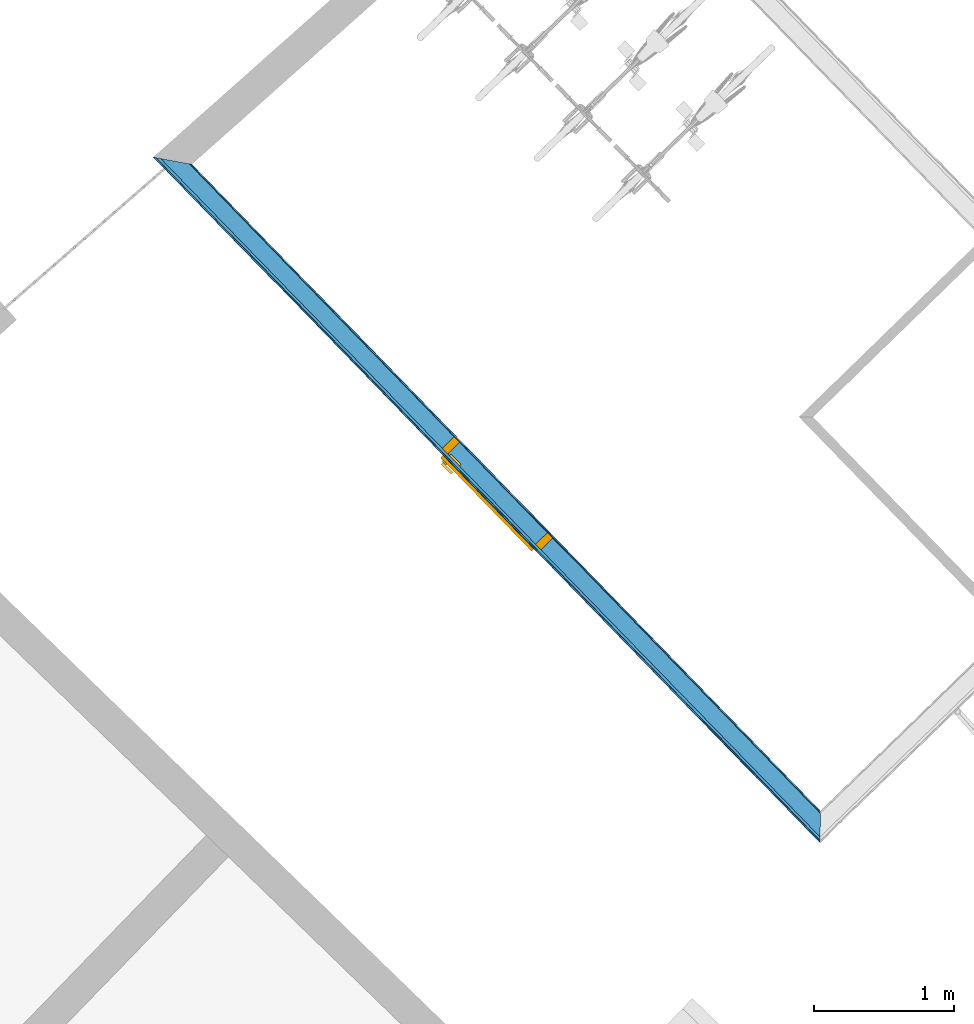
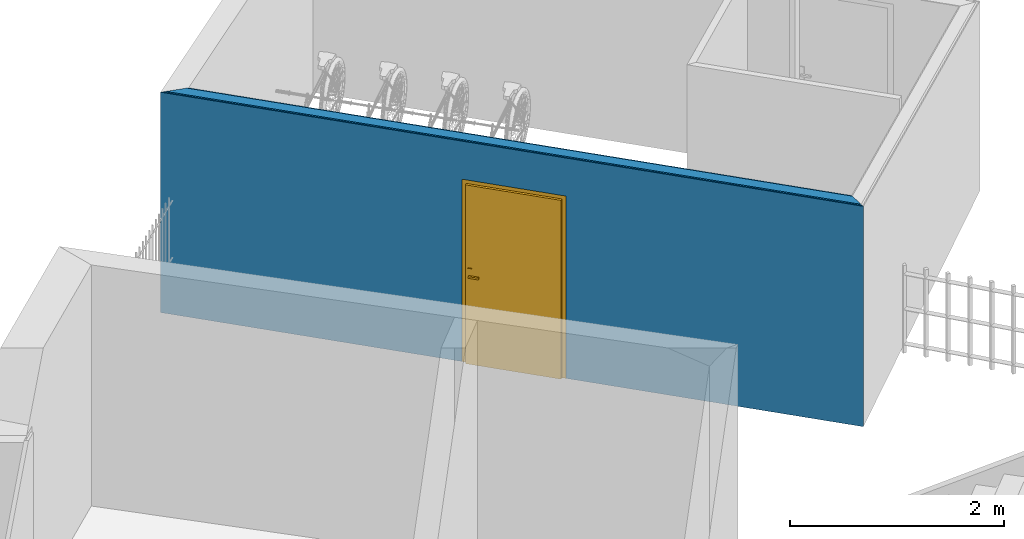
# One storey, part 112 of 195: 4 building element parts, 1 door, 1 opening, 1 element without a shape of its own.
"""IFC2X3 building model written with IfcOpenShell, lengths in metres."""

from ifc_helpers import new_model, entity, si_unit, converted_unit, derived_unit, money_unit, direction, frame, origin_with_axes, origin_2d_with_axis, place, context, subcontext, project, spatial, polyline, rectangle, outline, extrude, boolean, faceted_brep, source, transform, mapped, material, type_object, element, fill, aggregate, save


model = new_model("IFC2X3")

# Units and contexts
model_context = context("Model", 3, precision=1e-05, world=origin_with_axes(), true_north=direction((0.0, 1.0)))
body_context = subcontext(model_context, "Body", "Model", "MODEL_VIEW")
ifc_project = project(units=[si_unit("LENGTHUNIT", "METRE"), si_unit("AREAUNIT", "SQUARE_METRE"), si_unit("VOLUMEUNIT", "CUBIC_METRE"), converted_unit("PLANEANGLEUNIT", "DEGREE", entity("IfcPlaneAngleMeasure", 0.0174532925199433), si_unit("PLANEANGLEUNIT", "RADIAN"), dimensions=[0, 0, 0, 0, 0, 0, 0]), money_unit("CHF"), converted_unit("TIMEUNIT", "Year", entity("IfcTimeMeasure", 31557600.0), si_unit("TIMEUNIT", "SECOND"), dimensions=[0, 0, 1, 0, 0, 0, 0]), si_unit("MASSUNIT", "GRAM", prefix="KILO"), si_unit("THERMODYNAMICTEMPERATUREUNIT", "DEGREE_CELSIUS"), si_unit("LUMINOUSINTENSITYUNIT", "LUMEN"), si_unit("ENERGYUNIT", "JOULE", prefix="MEGA"), derived_unit("THERMALCONDUCTANCEUNIT", [(si_unit("POWERUNIT", "WATT"), 1), (si_unit("LENGTHUNIT", "METRE"), -1), (si_unit("THERMODYNAMICTEMPERATUREUNIT", "KELVIN"), -1)]), derived_unit("SPECIFICHEATCAPACITYUNIT", [(si_unit("ENERGYUNIT", "JOULE"), 1), (si_unit("MASSUNIT", "GRAM", prefix="KILO"), -1), (si_unit("THERMODYNAMICTEMPERATUREUNIT", "KELVIN"), -1)]), derived_unit("MASSDENSITYUNIT", [(si_unit("MASSUNIT", "GRAM", prefix="KILO"), 1), (si_unit("VOLUMEUNIT", "CUBIC_METRE"), -1)])], contexts=[model_context])

# Site, building, storey
site_placement = place(None, origin_with_axes())
site = spatial("IfcSite", under=ifc_project, at=site_placement, Name="Site", CompositionType="ELEMENT")
building_placement = place(site_placement, origin_with_axes())
building = spatial("IfcBuilding", under=site, at=building_placement, Name="Bâtiment", CompositionType="ELEMENT")
storey_placement = place(building_placement, origin_with_axes())
storey = spatial("IfcBuildingStorey", under=building, at=storey_placement, Name="rdc", CompositionType="ELEMENT", Elevation=0.0)

# Door
door_style = type_object("IfcDoorStyle", Name="Porte_1v", ConstructionType="NOTDEFINED", OperationType="NOTDEFINED", ParameterTakesPrecedence=False, Sizeable=False)
shared_shape = source(origin_with_axes(), body_context, "Body", "Brep", [
    faceted_brep([(-0.505, 0.0, 0.0), (-0.505, 0.0, 2.08), (0.505, 0.0, 2.08), (0.505, 0.0, 0.0), (0.465, 0.0, 0.0), (0.465, 0.0, 2.04), (-0.465, 0.0, 2.04), (-0.465, 0.0, 0.0), (-0.505, -0.16, 0.0), (-0.505, -0.16, 2.08), (0.505, -0.16, 2.08), (0.505, -0.16, 0.0), (0.45, -0.16, 0.0), (0.45, -0.015, 0.0), (0.465, -0.015, 0.0), (0.465, -0.015, 2.04), (-0.465, -0.015, 2.04), (-0.465, -0.015, 0.0), (-0.45, -0.015, 0.0), (-0.45, -0.16, 0.0), (-0.45, -0.16, 2.025), (0.45, -0.16, 2.025), (0.45, -0.015, 2.025), (-0.45, -0.015, 2.025)], [[[0, 1, 2, 3, 4, 5, 6, 7]], [[8, 9, 1, 0]], [[9, 10, 2, 1]], [[10, 11, 3, 2]], [[3, 11, 12, 13, 14, 4]], [[5, 4, 14, 15]], [[6, 5, 15, 16]], [[7, 6, 16, 17]], [[0, 7, 17, 18, 19, 8]], [[19, 20, 21, 12, 11, 10, 9, 8]], [[22, 13, 12, 21]], [[17, 16, 15, 14, 13, 22, 23, 18]], [[18, 23, 20, 19]], [[23, 22, 21, 20]]]),
    faceted_brep([(0.4, -0.015, 0.9), (0.4, -0.015, 1.1), (0.44, -0.015, 1.1), (0.44, -0.015, 0.9), (0.4, -0.025, 0.9), (0.4, -0.025, 1.1), (0.44, -0.025, 1.1), (0.44, -0.025, 0.9)], [[[0, 1, 2, 3]], [[0, 4, 5, 1]], [[1, 5, 6, 2]], [[2, 6, 7, 3]], [[3, 7, 4, 0]], [[7, 6, 5, 4]]]),
    faceted_brep([(0.33, -0.025, 1.0), (0.33, -0.025, 1.02), (0.43, -0.025, 1.02), (0.43, -0.025, 1.0), (0.33, -0.045, 1.0), (0.33, -0.045, 1.02), (0.43, -0.045, 1.02), (0.43, -0.045, 1.0)], [[[0, 1, 2, 3]], [[0, 4, 5, 1]], [[1, 5, 6, 2]], [[2, 6, 7, 3]], [[3, 7, 4, 0]], [[7, 6, 5, 4]]]),
    faceted_brep([(0.4, 0.035, 0.9), (0.4, 0.035, 1.1), (0.44, 0.035, 1.1), (0.44, 0.035, 0.9), (0.4, 0.025, 0.9), (0.4, 0.025, 1.1), (0.44, 0.025, 1.1), (0.44, 0.025, 0.9)], [[[0, 1, 2, 3]], [[0, 4, 5, 1]], [[1, 5, 6, 2]], [[2, 6, 7, 3]], [[3, 7, 4, 0]], [[7, 6, 5, 4]]]),
    faceted_brep([(0.33, 0.05500000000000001, 1.0), (0.33, 0.05500000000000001, 1.02), (0.43, 0.05500000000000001, 1.02), (0.43, 0.05500000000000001, 1.0), (0.33, 0.035, 1.0), (0.33, 0.035, 1.02), (0.43, 0.035, 1.02), (0.43, 0.035, 1.0)], [[[0, 1, 2, 3]], [[0, 4, 5, 1]], [[1, 5, 6, 2]], [[2, 6, 7, 3]], [[3, 7, 4, 0]], [[7, 6, 5, 4]]]),
    faceted_brep([(0.465, 0.025, 0.0), (0.465, -0.015, 0.0), (-0.465, -0.015, 0.0), (-0.465, 0.025, 0.0), (0.465, 0.025, 2.04), (0.465, -0.015, 2.04), (-0.465, -0.015, 2.04), (-0.465, 0.025, 2.04)], [[[0, 1, 2, 3]], [[4, 5, 1, 0]], [[1, 5, 6, 2]], [[3, 2, 6, 7]], [[0, 3, 7, 4]], [[7, 6, 5, 4]]]),
])
wall_placement = place(storey_placement, frame((9524.77334866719, -1050.399099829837, 57.7), z_axis=(0.0, 0.0, 1.0), x_axis=(0.6970514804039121, -0.7170210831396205, 0.0)))
opening_placement = place(wall_placement, frame((3.432817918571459, 0.0, 0.0), z_axis=(0.0, 0.0, 1.0), x_axis=(1.0, 0.0, 0.0)))
door_placement = place(opening_placement, frame((0.4650000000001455, 0.0, 0.0), z_axis=(0.0, 0.0, 1.0), x_axis=(-1.0, 0.0, 0.0)))
door = element("IfcDoor", 1, at=door_placement, inside=storey, type_object=door_style, Name="Por-300", OverallHeight=2.04, OverallWidth=0.93, context=body_context, shape_type="MappedRepresentation", body=[
    mapped(shared_shape, transform((0.4650000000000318, 0.0, 0.0))),
])

# Wall, opening
wall_type = type_object("IfcWallType", Name="1/Ossatur bois 160   non isol 160", PredefinedType="NOTDEFINED")
wall = element("IfcWall", 2, at=wall_placement, inside=storey, type_object=wall_type, Name="Mur-110")
opening = element("IfcOpeningElement", 3, at=opening_placement, cuts=wall, Name="Por-300", context=body_context, shape_type="SweptSolid", body=[
    extrude(rectangle(XDim=1.01000001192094, YDim=2.079999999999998, at=origin_2d_with_axis()), frame((5.960487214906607e-09, 0.1600000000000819, 1.039999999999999), z_axis=(0.0, 1.0, 0.0), x_axis=(1.0, 0.0, 0.0)), (0.0, 0.0, -1.0), 0.32),
])

fill(opening, door)

# Building element part
ifc_material_1 = material(Name="Sans Trame 296962763")
building_element_part_1_placement = place(wall_placement, origin_with_axes())
building_element_part_1 = element("IfcBuildingElementPart", 4, at=building_element_part_1_placement, material=ifc_material_1, Name="Sans Trame 296962763", context=body_context, shape_type="CSG", body=[
    boolean("DIFFERENCE", boolean("DIFFERENCE", boolean("DIFFERENCE", boolean("DIFFERENCE", extrude(outline(polyline([(0.0, 0.1499999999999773), (6.826933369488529, 0.1499999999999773), (6.826933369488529, 0.1599999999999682), (0.0, 0.1600000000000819), (0.0, 0.1499999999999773)])), origin_with_axes(), (0.0, 0.0, 1.0), 2.75), faceted_brep([(0.2274624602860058, 0.1599999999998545, 2.50019112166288), (0.2274624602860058, 0.1599999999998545, 0.0), (0.0, 0.1600000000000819, 0.0), (0.0, 0.1600000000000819, 2.75), (6.826933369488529, 0.1599999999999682, 2.75), (6.826933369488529, 0.1599999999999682, 0.0), (6.666933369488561, 0.1599999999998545, 0.0), (6.666933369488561, 0.1599999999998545, 2.500191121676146), (0.213246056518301, 0.1499999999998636, 2.501066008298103), (0.213246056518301, 0.1499999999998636, 0.0), (0.0, 0.1499999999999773, 0.0), (0.0, 0.1499999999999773, 2.75), (6.826933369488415, 0.1499999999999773, 2.75), (6.826933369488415, 0.1499999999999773, 0.0), (6.676933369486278, 0.1499999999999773, 0.0), (6.676933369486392, 0.1499999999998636, 2.501066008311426)], [[[0, 1, 2, 3, 4, 5, 6, 7]], [[1, 0, 8, 9]], [[1, 9, 10, 2]], [[3, 2, 10, 11]], [[3, 11, 12, 4]], [[12, 13, 5, 4]], [[14, 6, 5, 13]], [[7, 6, 14, 15]], [[0, 7, 15, 8]], [[15, 14, 13, 12, 11, 10, 9, 8]]])), faceted_brep([(0.213246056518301, 0.1499999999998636, 2.501066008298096), (0.213246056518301, 0.1499999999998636, 0.0), (0.0, 0.1499999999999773, 0.0), (0.0, 0.1499999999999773, 2.75), (6.826933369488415, 0.1499999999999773, 2.75), (6.826933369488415, 0.1499999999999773, 0.0), (6.676933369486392, 0.1499999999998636, 0.0), (6.676933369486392, 0.1499999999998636, 2.501066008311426), (0.04264921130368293, 0.02999999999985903, 2.511564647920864), (0.04264921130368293, 0.02999999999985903, 0.0), (0.0, 0.02999999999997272, 0.0), (0.0, 0.02999999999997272, 2.75), (6.826933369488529, 0.02999999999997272, 2.75), (6.826933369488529, 0.02999999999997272, 0.0), (6.796933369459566, 0.02999999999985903, 0.0), (6.796933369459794, 0.02999999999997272, 2.511564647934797)], [[[0, 1, 2, 3, 4, 5, 6, 7]], [[1, 0, 8, 9]], [[1, 9, 10, 2]], [[3, 2, 10, 11]], [[3, 11, 12, 4]], [[12, 13, 5, 4]], [[14, 6, 5, 13]], [[7, 6, 14, 15]], [[0, 7, 15, 8]], [[15, 14, 13, 12, 11, 10, 9, 8]]])), faceted_brep([(0.04264921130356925, 0.02999999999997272, 2.511564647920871), (0.04264921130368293, 0.02999999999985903, 0.0), (0.0, 0.02999999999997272, 0.0), (0.0, 0.02999999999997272, 2.75), (6.826933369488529, 0.02999999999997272, 2.75), (6.826933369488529, 0.02999999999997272, 0.0), (6.796933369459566, 0.02999999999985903, 0.0), (6.796933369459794, 0.02999999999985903, 2.511564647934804), (0.01421640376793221, 0.009999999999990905, 2.513314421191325), (0.01421640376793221, 0.009999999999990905, 0.0), (0.0, 0.009999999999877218, 0.0), (0.0, 0.009999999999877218, 2.75), (6.826933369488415, 0.009999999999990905, 2.75), (6.826933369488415, 0.009999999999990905, 0.0), (6.816933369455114, 0.009999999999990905, 0.0), (6.816933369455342, 0.009999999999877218, 2.513314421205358)], [[[0, 1, 2, 3, 4, 5, 6, 7]], [[1, 0, 8, 9]], [[1, 9, 10, 2]], [[3, 2, 10, 11]], [[3, 11, 12, 4]], [[12, 13, 5, 4]], [[14, 6, 5, 13]], [[7, 6, 14, 15]], [[0, 7, 15, 8]], [[15, 14, 13, 12, 11, 10, 9, 8]]])), faceted_brep([(0.01421640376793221, 0.009999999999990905, 2.513314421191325), (0.01421640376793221, 0.009999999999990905, 0.0), (0.0, 0.009999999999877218, 0.0), (0.0, 0.009999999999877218, 2.75), (6.826933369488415, 0.009999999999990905, 2.75), (6.826933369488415, 0.009999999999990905, 0.0), (6.816933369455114, 0.009999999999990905, 0.0), (6.816933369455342, 0.009999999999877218, 2.513314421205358), (0.0, 0.0, 2.514189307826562), (0.0, 0.0, 0.0), (0.0, 0.0, 2.75), (6.826933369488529, 0.0, 2.75), (6.826933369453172, 0.0, 2.514189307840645), (6.826933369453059, 0.0, 0.0)], [[[0, 1, 2, 3, 4, 5, 6, 7]], [[1, 0, 8, 9]], [[1, 9, 2]], [[9, 8, 10, 3, 2]], [[3, 10, 11, 4]], [[12, 13, 5, 4, 11]], [[13, 6, 5]], [[7, 6, 13, 12]], [[0, 7, 12, 8]], [[8, 12, 11, 10]]])),
])

ifc_material_2 = material(Name="Lame d'air 275581439")
building_element_part_2_placement = place(wall_placement, origin_with_axes())
building_element_part_2 = element("IfcBuildingElementPart", 5, at=building_element_part_2_placement, material=ifc_material_2, Name="Lame d'air 275581439", context=body_context, shape_type="CSG", body=[
    boolean("DIFFERENCE", boolean("DIFFERENCE", boolean("DIFFERENCE", boolean("DIFFERENCE", extrude(outline(polyline([(0.0, 0.02999999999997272), (6.826933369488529, 0.02999999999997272), (6.826933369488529, 0.1499999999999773), (0.0, 0.1499999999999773), (0.0, 0.02999999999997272)])), origin_with_axes(), (0.0, 0.0, 1.0), 2.75), faceted_brep([(0.2274624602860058, 0.1599999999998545, 2.50019112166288), (0.2274624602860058, 0.1599999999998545, 0.0), (0.0, 0.1600000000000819, 0.0), (0.0, 0.1600000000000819, 2.75), (6.826933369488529, 0.1599999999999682, 2.75), (6.826933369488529, 0.1599999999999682, 0.0), (6.666933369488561, 0.1599999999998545, 0.0), (6.666933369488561, 0.1599999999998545, 2.500191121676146), (0.213246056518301, 0.1499999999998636, 2.501066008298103), (0.213246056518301, 0.1499999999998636, 0.0), (0.0, 0.1499999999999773, 0.0), (0.0, 0.1499999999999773, 2.75), (6.826933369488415, 0.1499999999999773, 2.75), (6.826933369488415, 0.1499999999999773, 0.0), (6.676933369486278, 0.1499999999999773, 0.0), (6.676933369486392, 0.1499999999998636, 2.501066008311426)], [[[0, 1, 2, 3, 4, 5, 6, 7]], [[1, 0, 8, 9]], [[1, 9, 10, 2]], [[3, 2, 10, 11]], [[3, 11, 12, 4]], [[12, 13, 5, 4]], [[14, 6, 5, 13]], [[7, 6, 14, 15]], [[0, 7, 15, 8]], [[15, 14, 13, 12, 11, 10, 9, 8]]])), faceted_brep([(0.213246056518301, 0.1499999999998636, 2.501066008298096), (0.213246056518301, 0.1499999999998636, 0.0), (0.0, 0.1499999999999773, 0.0), (0.0, 0.1499999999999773, 2.75), (6.826933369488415, 0.1499999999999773, 2.75), (6.826933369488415, 0.1499999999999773, 0.0), (6.676933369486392, 0.1499999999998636, 0.0), (6.676933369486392, 0.1499999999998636, 2.501066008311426), (0.04264921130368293, 0.02999999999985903, 2.511564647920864), (0.04264921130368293, 0.02999999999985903, 0.0), (0.0, 0.02999999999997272, 0.0), (0.0, 0.02999999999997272, 2.75), (6.826933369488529, 0.02999999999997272, 2.75), (6.826933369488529, 0.02999999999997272, 0.0), (6.796933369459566, 0.02999999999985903, 0.0), (6.796933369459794, 0.02999999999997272, 2.511564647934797)], [[[0, 1, 2, 3, 4, 5, 6, 7]], [[1, 0, 8, 9]], [[1, 9, 10, 2]], [[3, 2, 10, 11]], [[3, 11, 12, 4]], [[12, 13, 5, 4]], [[14, 6, 5, 13]], [[7, 6, 14, 15]], [[0, 7, 15, 8]], [[15, 14, 13, 12, 11, 10, 9, 8]]])), faceted_brep([(0.04264921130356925, 0.02999999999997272, 2.511564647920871), (0.04264921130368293, 0.02999999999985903, 0.0), (0.0, 0.02999999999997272, 0.0), (0.0, 0.02999999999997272, 2.75), (6.826933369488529, 0.02999999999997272, 2.75), (6.826933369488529, 0.02999999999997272, 0.0), (6.796933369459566, 0.02999999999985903, 0.0), (6.796933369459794, 0.02999999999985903, 2.511564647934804), (0.01421640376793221, 0.009999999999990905, 2.513314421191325), (0.01421640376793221, 0.009999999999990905, 0.0), (0.0, 0.009999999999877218, 0.0), (0.0, 0.009999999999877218, 2.75), (6.826933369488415, 0.009999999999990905, 2.75), (6.826933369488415, 0.009999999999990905, 0.0), (6.816933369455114, 0.009999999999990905, 0.0), (6.816933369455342, 0.009999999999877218, 2.513314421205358)], [[[0, 1, 2, 3, 4, 5, 6, 7]], [[1, 0, 8, 9]], [[1, 9, 10, 2]], [[3, 2, 10, 11]], [[3, 11, 12, 4]], [[12, 13, 5, 4]], [[14, 6, 5, 13]], [[7, 6, 14, 15]], [[0, 7, 15, 8]], [[15, 14, 13, 12, 11, 10, 9, 8]]])), faceted_brep([(0.01421640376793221, 0.009999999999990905, 2.513314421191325), (0.01421640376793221, 0.009999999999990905, 0.0), (0.0, 0.009999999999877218, 0.0), (0.0, 0.009999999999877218, 2.75), (6.826933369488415, 0.009999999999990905, 2.75), (6.826933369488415, 0.009999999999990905, 0.0), (6.816933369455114, 0.009999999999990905, 0.0), (6.816933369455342, 0.009999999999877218, 2.513314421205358), (0.0, 0.0, 2.514189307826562), (0.0, 0.0, 0.0), (0.0, 0.0, 2.75), (6.826933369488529, 0.0, 2.75), (6.826933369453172, 0.0, 2.514189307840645), (6.826933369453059, 0.0, 0.0)], [[[0, 1, 2, 3, 4, 5, 6, 7]], [[1, 0, 8, 9]], [[1, 9, 2]], [[9, 8, 10, 3, 2]], [[3, 10, 11, 4]], [[12, 13, 5, 4, 11]], [[13, 6, 5]], [[7, 6, 13, 12]], [[0, 7, 12, 8]], [[8, 12, 11, 10]]])),
])

ifc_material_3 = material(Name="Lame d'air 323202302")
building_element_part_3_placement = place(wall_placement, origin_with_axes())
building_element_part_3 = element("IfcBuildingElementPart", 6, at=building_element_part_3_placement, material=ifc_material_3, Name="Lame d'air 323202302", context=body_context, shape_type="CSG", body=[
    boolean("DIFFERENCE", boolean("DIFFERENCE", boolean("DIFFERENCE", boolean("DIFFERENCE", extrude(outline(polyline([(0.0, 0.009999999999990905), (6.826933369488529, 0.009999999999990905), (6.826933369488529, 0.02999999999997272), (0.0, 0.02999999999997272), (0.0, 0.009999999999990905)])), origin_with_axes(), (0.0, 0.0, 1.0), 2.75), faceted_brep([(0.2274624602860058, 0.1599999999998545, 2.50019112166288), (0.2274624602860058, 0.1599999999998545, 0.0), (0.0, 0.1600000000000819, 0.0), (0.0, 0.1600000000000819, 2.75), (6.826933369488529, 0.1599999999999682, 2.75), (6.826933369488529, 0.1599999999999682, 0.0), (6.666933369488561, 0.1599999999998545, 0.0), (6.666933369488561, 0.1599999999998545, 2.500191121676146), (0.213246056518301, 0.1499999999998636, 2.501066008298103), (0.213246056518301, 0.1499999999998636, 0.0), (0.0, 0.1499999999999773, 0.0), (0.0, 0.1499999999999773, 2.75), (6.826933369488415, 0.1499999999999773, 2.75), (6.826933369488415, 0.1499999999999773, 0.0), (6.676933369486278, 0.1499999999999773, 0.0), (6.676933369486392, 0.1499999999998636, 2.501066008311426)], [[[0, 1, 2, 3, 4, 5, 6, 7]], [[1, 0, 8, 9]], [[1, 9, 10, 2]], [[3, 2, 10, 11]], [[3, 11, 12, 4]], [[12, 13, 5, 4]], [[14, 6, 5, 13]], [[7, 6, 14, 15]], [[0, 7, 15, 8]], [[15, 14, 13, 12, 11, 10, 9, 8]]])), faceted_brep([(0.213246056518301, 0.1499999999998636, 2.501066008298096), (0.213246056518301, 0.1499999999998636, 0.0), (0.0, 0.1499999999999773, 0.0), (0.0, 0.1499999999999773, 2.75), (6.826933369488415, 0.1499999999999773, 2.75), (6.826933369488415, 0.1499999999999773, 0.0), (6.676933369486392, 0.1499999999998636, 0.0), (6.676933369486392, 0.1499999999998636, 2.501066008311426), (0.04264921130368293, 0.02999999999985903, 2.511564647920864), (0.04264921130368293, 0.02999999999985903, 0.0), (0.0, 0.02999999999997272, 0.0), (0.0, 0.02999999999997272, 2.75), (6.826933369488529, 0.02999999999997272, 2.75), (6.826933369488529, 0.02999999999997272, 0.0), (6.796933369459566, 0.02999999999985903, 0.0), (6.796933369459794, 0.02999999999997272, 2.511564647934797)], [[[0, 1, 2, 3, 4, 5, 6, 7]], [[1, 0, 8, 9]], [[1, 9, 10, 2]], [[3, 2, 10, 11]], [[3, 11, 12, 4]], [[12, 13, 5, 4]], [[14, 6, 5, 13]], [[7, 6, 14, 15]], [[0, 7, 15, 8]], [[15, 14, 13, 12, 11, 10, 9, 8]]])), faceted_brep([(0.04264921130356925, 0.02999999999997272, 2.511564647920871), (0.04264921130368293, 0.02999999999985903, 0.0), (0.0, 0.02999999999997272, 0.0), (0.0, 0.02999999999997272, 2.75), (6.826933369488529, 0.02999999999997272, 2.75), (6.826933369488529, 0.02999999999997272, 0.0), (6.796933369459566, 0.02999999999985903, 0.0), (6.796933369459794, 0.02999999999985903, 2.511564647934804), (0.01421640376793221, 0.009999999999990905, 2.513314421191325), (0.01421640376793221, 0.009999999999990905, 0.0), (0.0, 0.009999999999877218, 0.0), (0.0, 0.009999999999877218, 2.75), (6.826933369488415, 0.009999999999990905, 2.75), (6.826933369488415, 0.009999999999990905, 0.0), (6.816933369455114, 0.009999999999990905, 0.0), (6.816933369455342, 0.009999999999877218, 2.513314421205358)], [[[0, 1, 2, 3, 4, 5, 6, 7]], [[1, 0, 8, 9]], [[1, 9, 10, 2]], [[3, 2, 10, 11]], [[3, 11, 12, 4]], [[12, 13, 5, 4]], [[14, 6, 5, 13]], [[7, 6, 14, 15]], [[0, 7, 15, 8]], [[15, 14, 13, 12, 11, 10, 9, 8]]])), faceted_brep([(0.01421640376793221, 0.009999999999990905, 2.513314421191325), (0.01421640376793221, 0.009999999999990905, 0.0), (0.0, 0.009999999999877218, 0.0), (0.0, 0.009999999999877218, 2.75), (6.826933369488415, 0.009999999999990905, 2.75), (6.826933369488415, 0.009999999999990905, 0.0), (6.816933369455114, 0.009999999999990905, 0.0), (6.816933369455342, 0.009999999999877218, 2.513314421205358), (0.0, 0.0, 2.514189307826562), (0.0, 0.0, 0.0), (0.0, 0.0, 2.75), (6.826933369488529, 0.0, 2.75), (6.826933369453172, 0.0, 2.514189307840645), (6.826933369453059, 0.0, 0.0)], [[[0, 1, 2, 3, 4, 5, 6, 7]], [[1, 0, 8, 9]], [[1, 9, 2]], [[9, 8, 10, 3, 2]], [[3, 10, 11, 4]], [[12, 13, 5, 4, 11]], [[13, 6, 5]], [[7, 6, 13, 12]], [[0, 7, 12, 8]], [[8, 12, 11, 10]]])),
])

ifc_material_4 = material(Name="Hachure solide 323202122")
building_element_part_4_placement = place(wall_placement, origin_with_axes())
building_element_part_4 = element("IfcBuildingElementPart", 7, at=building_element_part_4_placement, material=ifc_material_4, Name="Hachure solide 323202122", context=body_context, shape_type="CSG", body=[
    boolean("DIFFERENCE", boolean("DIFFERENCE", boolean("DIFFERENCE", boolean("DIFFERENCE", extrude(outline(polyline([(0.0, 0.0), (6.826933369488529, 0.0), (6.826933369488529, 0.009999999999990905), (0.0, 0.009999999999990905), (0.0, 0.0)])), origin_with_axes(), (0.0, 0.0, 1.0), 2.75), faceted_brep([(0.2274624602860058, 0.1599999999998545, 2.50019112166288), (0.2274624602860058, 0.1599999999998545, 0.0), (0.0, 0.1600000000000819, 0.0), (0.0, 0.1600000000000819, 2.75), (6.826933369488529, 0.1599999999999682, 2.75), (6.826933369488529, 0.1599999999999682, 0.0), (6.666933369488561, 0.1599999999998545, 0.0), (6.666933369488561, 0.1599999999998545, 2.500191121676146), (0.213246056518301, 0.1499999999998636, 2.501066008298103), (0.213246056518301, 0.1499999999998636, 0.0), (0.0, 0.1499999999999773, 0.0), (0.0, 0.1499999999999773, 2.75), (6.826933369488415, 0.1499999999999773, 2.75), (6.826933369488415, 0.1499999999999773, 0.0), (6.676933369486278, 0.1499999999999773, 0.0), (6.676933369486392, 0.1499999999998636, 2.501066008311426)], [[[0, 1, 2, 3, 4, 5, 6, 7]], [[1, 0, 8, 9]], [[1, 9, 10, 2]], [[3, 2, 10, 11]], [[3, 11, 12, 4]], [[12, 13, 5, 4]], [[14, 6, 5, 13]], [[7, 6, 14, 15]], [[0, 7, 15, 8]], [[15, 14, 13, 12, 11, 10, 9, 8]]])), faceted_brep([(0.213246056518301, 0.1499999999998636, 2.501066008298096), (0.213246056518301, 0.1499999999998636, 0.0), (0.0, 0.1499999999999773, 0.0), (0.0, 0.1499999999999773, 2.75), (6.826933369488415, 0.1499999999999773, 2.75), (6.826933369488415, 0.1499999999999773, 0.0), (6.676933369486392, 0.1499999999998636, 0.0), (6.676933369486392, 0.1499999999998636, 2.501066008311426), (0.04264921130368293, 0.02999999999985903, 2.511564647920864), (0.04264921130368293, 0.02999999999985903, 0.0), (0.0, 0.02999999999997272, 0.0), (0.0, 0.02999999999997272, 2.75), (6.826933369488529, 0.02999999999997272, 2.75), (6.826933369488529, 0.02999999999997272, 0.0), (6.796933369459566, 0.02999999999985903, 0.0), (6.796933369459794, 0.02999999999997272, 2.511564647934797)], [[[0, 1, 2, 3, 4, 5, 6, 7]], [[1, 0, 8, 9]], [[1, 9, 10, 2]], [[3, 2, 10, 11]], [[3, 11, 12, 4]], [[12, 13, 5, 4]], [[14, 6, 5, 13]], [[7, 6, 14, 15]], [[0, 7, 15, 8]], [[15, 14, 13, 12, 11, 10, 9, 8]]])), faceted_brep([(0.04264921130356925, 0.02999999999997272, 2.511564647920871), (0.04264921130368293, 0.02999999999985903, 0.0), (0.0, 0.02999999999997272, 0.0), (0.0, 0.02999999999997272, 2.75), (6.826933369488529, 0.02999999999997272, 2.75), (6.826933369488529, 0.02999999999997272, 0.0), (6.796933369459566, 0.02999999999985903, 0.0), (6.796933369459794, 0.02999999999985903, 2.511564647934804), (0.01421640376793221, 0.009999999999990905, 2.513314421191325), (0.01421640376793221, 0.009999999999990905, 0.0), (0.0, 0.009999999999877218, 0.0), (0.0, 0.009999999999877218, 2.75), (6.826933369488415, 0.009999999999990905, 2.75), (6.826933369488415, 0.009999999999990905, 0.0), (6.816933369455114, 0.009999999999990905, 0.0), (6.816933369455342, 0.009999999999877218, 2.513314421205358)], [[[0, 1, 2, 3, 4, 5, 6, 7]], [[1, 0, 8, 9]], [[1, 9, 10, 2]], [[3, 2, 10, 11]], [[3, 11, 12, 4]], [[12, 13, 5, 4]], [[14, 6, 5, 13]], [[7, 6, 14, 15]], [[0, 7, 15, 8]], [[15, 14, 13, 12, 11, 10, 9, 8]]])), faceted_brep([(0.01421640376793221, 0.009999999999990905, 2.513314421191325), (0.01421640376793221, 0.009999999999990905, 0.0), (0.0, 0.009999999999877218, 0.0), (0.0, 0.009999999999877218, 2.75), (6.826933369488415, 0.009999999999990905, 2.75), (6.826933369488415, 0.009999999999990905, 0.0), (6.816933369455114, 0.009999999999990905, 0.0), (6.816933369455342, 0.009999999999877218, 2.513314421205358), (0.0, 0.0, 2.514189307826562), (0.0, 0.0, 0.0), (0.0, 0.0, 2.75), (6.826933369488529, 0.0, 2.75), (6.826933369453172, 0.0, 2.514189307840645), (6.826933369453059, 0.0, 0.0)], [[[0, 1, 2, 3, 4, 5, 6, 7]], [[1, 0, 8, 9]], [[1, 9, 2]], [[9, 8, 10, 3, 2]], [[3, 10, 11, 4]], [[12, 13, 5, 4, 11]], [[13, 6, 5]], [[7, 6, 13, 12]], [[0, 7, 12, 8]], [[8, 12, 11, 10]]])),
])

aggregate(wall, [building_element_part_1, building_element_part_2, building_element_part_3, building_element_part_4])

save(model, "model.ifc")
